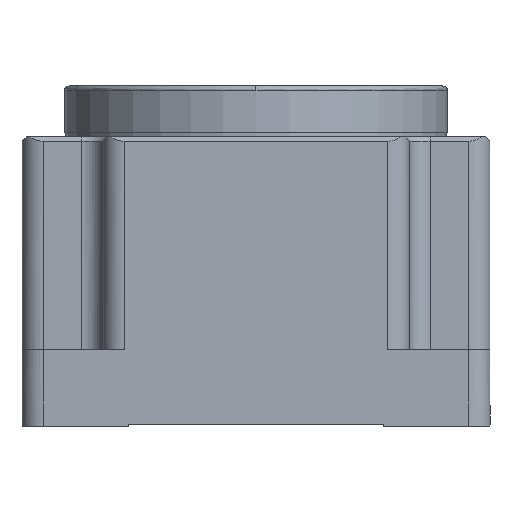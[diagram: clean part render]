
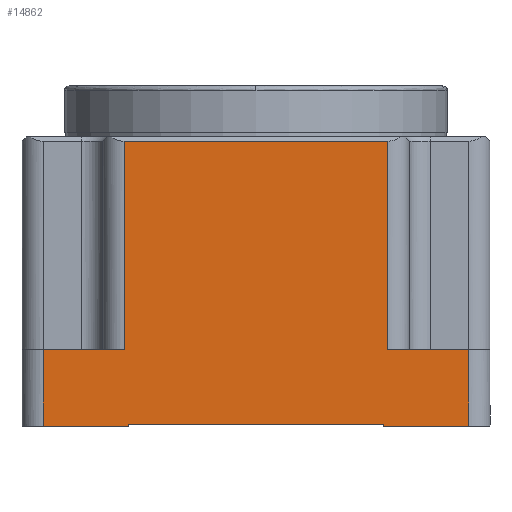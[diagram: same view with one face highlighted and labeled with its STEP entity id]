
A CAD part, left-side view. The second image highlights one B-rep face of the part: STEP entity #14862.
In plain terms, the highlighted planar face has unit normal (1, 0, 0).
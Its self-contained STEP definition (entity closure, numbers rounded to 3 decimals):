
#124 = CARTESIAN_POINT ( 'NONE',  ( -55., 31., 18. ) ) ;
#954 = VERTEX_POINT ( 'NONE', #12150 ) ;
#999 = CARTESIAN_POINT ( 'NONE',  ( -55., -30., 0.5 ) ) ;
#1385 = CARTESIAN_POINT ( 'NONE',  ( -55., -55., 0. ) ) ;
#2045 = ORIENTED_EDGE ( 'NONE', *, *, #23670, .T. ) ;
#2539 = LINE ( 'NONE', #17737, #19446 ) ;
#2952 = VECTOR ( 'NONE', #8657, 1000. ) ;
#3425 = VECTOR ( 'NONE', #7826, 1000. ) ;
#3535 = ORIENTED_EDGE ( 'NONE', *, *, #19852, .F. ) ;
#3728 = VECTOR ( 'NONE', #24269, 1000. ) ;
#3786 = DIRECTION ( 'NONE',  ( 0., 1., 0. ) ) ;
#4672 = CARTESIAN_POINT ( 'NONE',  ( -55., -31., 67. ) ) ;
#4816 = DIRECTION ( 'NONE',  ( 0., 0., 1. ) ) ;
#5099 = CARTESIAN_POINT ( 'NONE',  ( -55., -50., 68. ) ) ;
#5347 = FACE_OUTER_BOUND ( 'NONE', #21631, .T. ) ;
#5569 = LINE ( 'NONE', #15516, #13529 ) ;
#5603 = EDGE_CURVE ( 'NONE', #26100, #16225, #11763, .T. ) ;
#5607 = LINE ( 'NONE', #8023, #23884 ) ;
#6146 = LINE ( 'NONE', #25507, #3425 ) ;
#6635 = DIRECTION ( 'NONE',  ( 0., 0., 1. ) ) ;
#6756 = EDGE_CURVE ( 'NONE', #954, #26100, #7591, .T. ) ;
#7591 = LINE ( 'NONE', #1385, #23782 ) ;
#7826 = DIRECTION ( 'NONE',  ( 0., -1., 0. ) ) ;
#8023 = CARTESIAN_POINT ( 'NONE',  ( -55., 50., 68. ) ) ;
#8613 = EDGE_CURVE ( 'NONE', #18614, #23660, #5569, .T. ) ;
#8657 = DIRECTION ( 'NONE',  ( 0., 0., 1. ) ) ;
#9085 = LINE ( 'NONE', #13373, #13251 ) ;
#9132 = VECTOR ( 'NONE', #10056, 1000. ) ;
#9333 = CARTESIAN_POINT ( 'NONE',  ( -55., -30., 68. ) ) ;
#10056 = DIRECTION ( 'NONE',  ( 0., 0., -1. ) ) ;
#10318 = DIRECTION ( 'NONE',  ( 0., -1., 0. ) ) ;
#11064 = DIRECTION ( 'NONE',  ( 1., 0., 0. ) ) ;
#11191 = EDGE_CURVE ( 'NONE', #20685, #22465, #6146, .T. ) ;
#11240 = DIRECTION ( 'NONE',  ( 0., 0., -1. ) ) ;
#11243 = ORIENTED_EDGE ( 'NONE', *, *, #6756, .T. ) ;
#11383 = EDGE_CURVE ( 'NONE', #16776, #28059, #15476, .T. ) ;
#11763 = LINE ( 'NONE', #9333, #14523 ) ;
#12150 = CARTESIAN_POINT ( 'NONE',  ( -55., -50., 0. ) ) ;
#12238 = LINE ( 'NONE', #13098, #2952 ) ;
#13098 = CARTESIAN_POINT ( 'NONE',  ( -55., 31., 68. ) ) ;
#13112 = DIRECTION ( 'NONE',  ( 0., 0., -1. ) ) ;
#13251 = VECTOR ( 'NONE', #24396, 1000. ) ;
#13373 = CARTESIAN_POINT ( 'NONE',  ( -55., 0., 0.5 ) ) ;
#13529 = VECTOR ( 'NONE', #11240, 1000. ) ;
#13782 = ORIENTED_EDGE ( 'NONE', *, *, #26095, .T. ) ;
#13854 = CARTESIAN_POINT ( 'NONE',  ( -55., 30., 0.5 ) ) ;
#14523 = VECTOR ( 'NONE', #4816, 1000. ) ;
#14601 = DIRECTION ( 'NONE',  ( 0., 0., 1. ) ) ;
#14703 = CARTESIAN_POINT ( 'NONE',  ( -55., -30., 0. ) ) ;
#14719 = ORIENTED_EDGE ( 'NONE', *, *, #18768, .T. ) ;
#14862 = ADVANCED_FACE ( 'NONE', ( #5347 ), #24066, .T. ) ;
#15272 = CARTESIAN_POINT ( 'NONE',  ( -55., 0., 0. ) ) ;
#15476 = LINE ( 'NONE', #15272, #3728 ) ;
#15516 = CARTESIAN_POINT ( 'NONE',  ( -55., -31., 68. ) ) ;
#15727 = ORIENTED_EDGE ( 'NONE', *, *, #25274, .T. ) ;
#16096 = LINE ( 'NONE', #24311, #28041 ) ;
#16225 = VERTEX_POINT ( 'NONE', #999 ) ;
#16385 = LINE ( 'NONE', #5099, #9132 ) ;
#16404 = CARTESIAN_POINT ( 'NONE',  ( -55., 50., 0. ) ) ;
#16776 = VERTEX_POINT ( 'NONE', #16404 ) ;
#17525 = CARTESIAN_POINT ( 'NONE',  ( -55., -31., 18. ) ) ;
#17737 = CARTESIAN_POINT ( 'NONE',  ( -55., 30., 0.5 ) ) ;
#17892 = EDGE_CURVE ( 'NONE', #22465, #21231, #12238, .T. ) ;
#18190 = VERTEX_POINT ( 'NONE', #13854 ) ;
#18445 = VECTOR ( 'NONE', #10318, 1000. ) ;
#18580 = VERTEX_POINT ( 'NONE', #22393 ) ;
#18587 = ORIENTED_EDGE ( 'NONE', *, *, #5603, .T. ) ;
#18614 = VERTEX_POINT ( 'NONE', #4672 ) ;
#18768 = EDGE_CURVE ( 'NONE', #18580, #954, #16385, .T. ) ;
#19446 = VECTOR ( 'NONE', #6635, 1000. ) ;
#19577 = CARTESIAN_POINT ( 'NONE',  ( -55., 30., 0. ) ) ;
#19852 = EDGE_CURVE ( 'NONE', #28059, #18190, #2539, .T. ) ;
#20490 = EDGE_CURVE ( 'NONE', #16225, #18190, #9085, .T. ) ;
#20632 = ORIENTED_EDGE ( 'NONE', *, *, #17892, .T. ) ;
#20685 = VERTEX_POINT ( 'NONE', #22108 ) ;
#21231 = VERTEX_POINT ( 'NONE', #23202 ) ;
#21631 = EDGE_LOOP ( 'NONE', ( #18587, #22027, #3535, #21930, #13782, #23918, #20632, #2045, #23300, #15727, #14719, #11243 ) ) ;
#21930 = ORIENTED_EDGE ( 'NONE', *, *, #11383, .F. ) ;
#22027 = ORIENTED_EDGE ( 'NONE', *, *, #20490, .T. ) ;
#22108 = CARTESIAN_POINT ( 'NONE',  ( -55., 50., 18. ) ) ;
#22393 = CARTESIAN_POINT ( 'NONE',  ( -55., -50., 18. ) ) ;
#22465 = VERTEX_POINT ( 'NONE', #124 ) ;
#23202 = CARTESIAN_POINT ( 'NONE',  ( -55., 31., 67. ) ) ;
#23300 = ORIENTED_EDGE ( 'NONE', *, *, #8613, .T. ) ;
#23503 = CARTESIAN_POINT ( 'NONE',  ( -55., -55., 18. ) ) ;
#23660 = VERTEX_POINT ( 'NONE', #17525 ) ;
#23670 = EDGE_CURVE ( 'NONE', #21231, #18614, #16096, .T. ) ;
#23782 = VECTOR ( 'NONE', #3786, 1000. ) ;
#23884 = VECTOR ( 'NONE', #14601, 1000. ) ;
#23918 = ORIENTED_EDGE ( 'NONE', *, *, #11191, .T. ) ;
#24066 = PLANE ( 'NONE',  #26522 ) ;
#24269 = DIRECTION ( 'NONE',  ( 0., -1., 0. ) ) ;
#24311 = CARTESIAN_POINT ( 'NONE',  ( -55., -55., 67. ) ) ;
#24396 = DIRECTION ( 'NONE',  ( 0., 1., 0. ) ) ;
#25267 = LINE ( 'NONE', #23503, #18445 ) ;
#25274 = EDGE_CURVE ( 'NONE', #23660, #18580, #25267, .T. ) ;
#25507 = CARTESIAN_POINT ( 'NONE',  ( -55., 0., 18. ) ) ;
#26095 = EDGE_CURVE ( 'NONE', #16776, #20685, #5607, .T. ) ;
#26100 = VERTEX_POINT ( 'NONE', #14703 ) ;
#26243 = CARTESIAN_POINT ( 'NONE',  ( -55., -55., 68. ) ) ;
#26421 = DIRECTION ( 'NONE',  ( 0., -1., 0. ) ) ;
#26522 = AXIS2_PLACEMENT_3D ( 'NONE', #26243, #11064, #13112 ) ;
#28041 = VECTOR ( 'NONE', #26421, 1000. ) ;
#28059 = VERTEX_POINT ( 'NONE', #19577 ) ;
